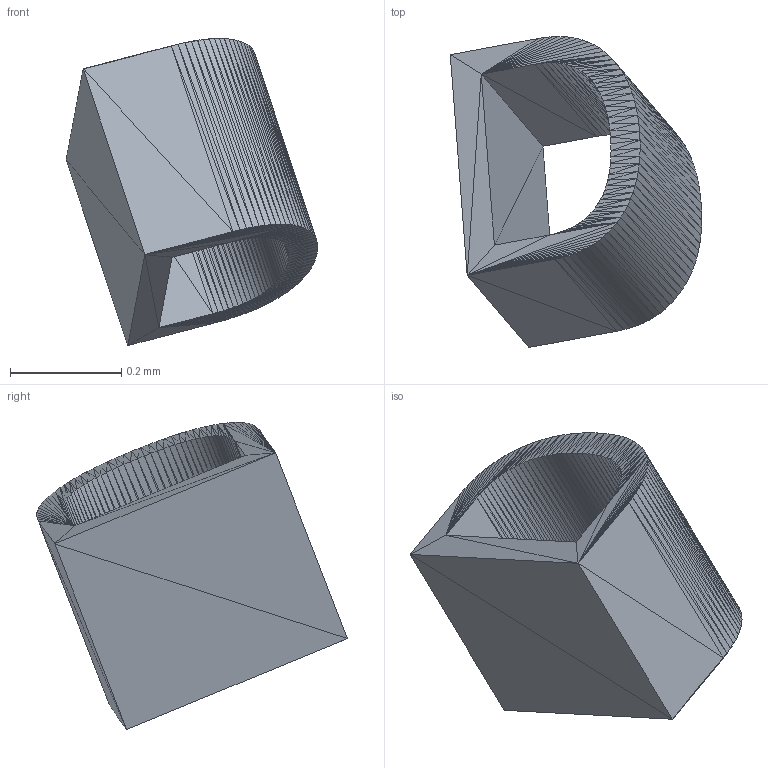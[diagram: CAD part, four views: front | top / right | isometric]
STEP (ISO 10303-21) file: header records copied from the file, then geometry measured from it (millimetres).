
FILE_DESCRIPTION(/* description */ (''),/* implementation_level */ '2;1');
FILE_NAME(/* name */ 'D.stp',/* time_stamp */ '2014-7-20T16:04:09.3649707',/* author */ ('EtsujiNomura'),/* organization */ (''),/* preprocessor_version */ 'InStep v2',/* originating_system */ 'InStep V2.3',/* authorisation */ '');
FILE_SCHEMA (('AUTOMOTIVE_DESIGN { 1 0 10303 214 1 1 1 1 }'));
Length unit declared in the file: millimetre
Products named in the file (1): None
Bounding box: 0.45 x 0.56 x 0.55 mm (x, y, z)
Volume: 0 mm3; surface area: 1 mm2
Topology: 1 solids, 1 shells, 408 faces, 612 edges, 204 vertices
Faces by surface type: plane 408
Entity records: 6338 total; most frequent: ORIENTED_EDGE 1224, DIRECTION 911, LINE 612, EDGE_CURVE 612, VECTOR 501, AXIS2_PLACEMENT_3D 409, EDGE_LOOP 408, FACE_OUTER_BOUND 408
